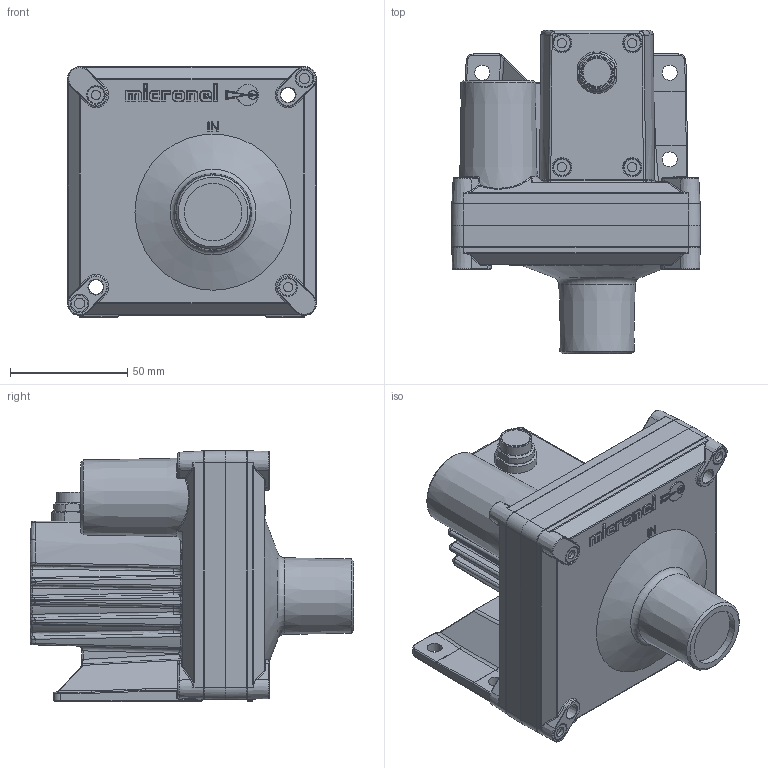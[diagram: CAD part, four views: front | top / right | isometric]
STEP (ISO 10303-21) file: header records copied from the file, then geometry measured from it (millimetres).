
FILE_DESCRIPTION(/* description */ (''),/* implementation_level */ '2;1');
FILE_NAME(/* name */ '016020_1_1.stp',/* time_stamp */ '2020-11-25T13:26:19+01:00',/* author */ (''),/* organization */ (''),/* preprocessor_version */ 'ST-DEVELOPER v16',/* originating_system */ 'SIEMENS PLM Software NX 11.0',/* authorisation */ '');
FILE_SCHEMA (('AP203_CONFIGURATION_CONTROLLED_3D_DESIGN_OF_MECHANICAL_PARTS_AND_ASSEMBLIES_MIM_LF { 1 0 10303 403 2 1 2}'));
Length unit declared in the file: millimetre
Products named in the file (1): bind4AF0AD87cqhy
Bounding box: 106.32 x 138 x 107.16 mm (x, y, z)
Volume: 628477.7 mm3; surface area: 75266.3 mm2
Topology: 1 solids, 1 shells, 1455 faces, 3264 edges, 1815 vertices
Faces by surface type: cylinder 459, bspline 421, plane 288, torus 98, sphere 96, cone 93
Full cylindrical faces by diameter (mm): 3.95 x6, 4.4 x2, 6.4 x6, 7 x8, 7.5 x4, 13.6 x1, 24.501 x2
Entity records: 47406 total; most frequent: CARTESIAN_POINT 17434, ORIENTED_EDGE 6266, DIRECTION 6215, EDGE_CURVE 3133, AXIS2_PLACEMENT_3D 2588, VERTEX_POINT 1799, EDGE_LOOP 1586, ADVANCED_FACE 1455
